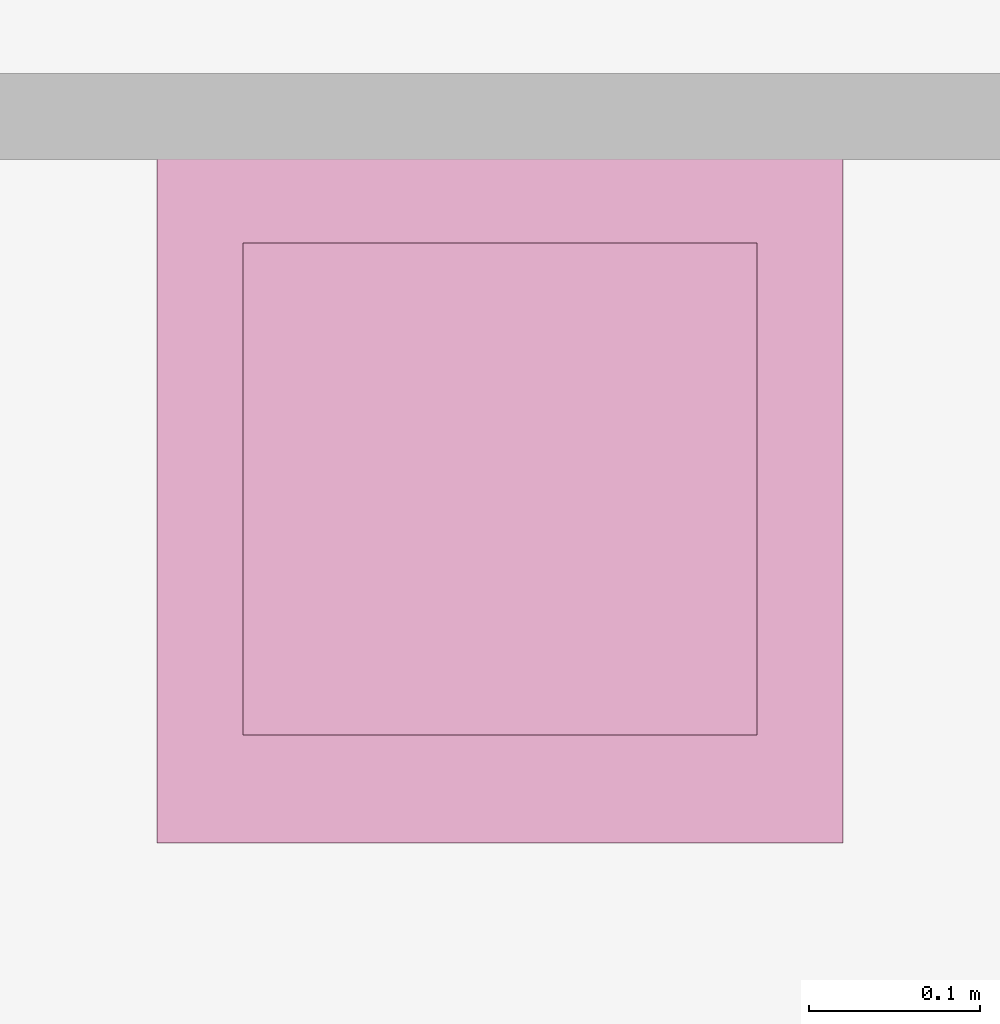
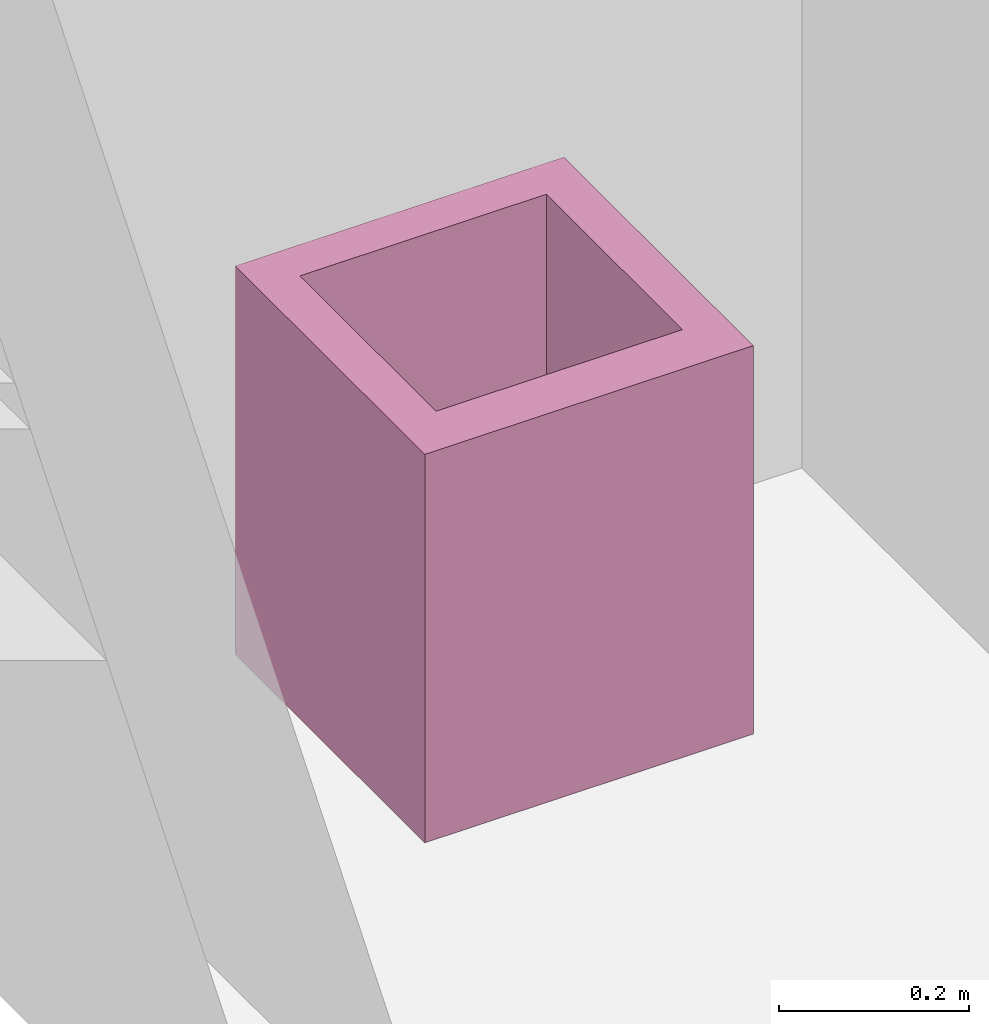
"""IFC4 building model written with IfcOpenShell, lengths in metres."""

from ifc_helpers import new_model, entity, si_unit, converted_unit, derived_unit, frame, origin, place, context, subcontext, project, spatial, faceted_brep, element, save


model = new_model("IFC4")

# Units and contexts
model_context = context("Model", 3, precision=1e-05, world=origin())
body_context = subcontext(model_context, "Body", "Model", "MODEL_VIEW")
ifc_project = project(units=[si_unit("LENGTHUNIT", "METRE"), si_unit("AREAUNIT", "SQUARE_METRE"), si_unit("VOLUMEUNIT", "CUBIC_METRE"), si_unit("MASSUNIT", "GRAM", prefix="KILO"), converted_unit("PLANEANGLEUNIT", "DEGREE", entity("IfcPlaneAngleMeasure", 0.0174532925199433), si_unit("PLANEANGLEUNIT", "RADIAN"), dimensions=[0, 0, 0, 0, 0, 0, 0]), derived_unit("THERMALTRANSMITTANCEUNIT", [(si_unit("POWERUNIT", "WATT"), 1), (si_unit("THERMODYNAMICTEMPERATUREUNIT", "KELVIN"), -1), (si_unit("LENGTHUNIT", "METRE"), -2)]), derived_unit("VOLUMETRICFLOWRATEUNIT", [(si_unit("LENGTHUNIT", "METRE"), 3), (converted_unit("TIMEUNIT", "hour", entity("IfcTimeMeasure", 3600.0), si_unit("TIMEUNIT", "SECOND"), dimensions=[0, 0, 1, 0, 0, 0, 0]), -1), (si_unit("LENGTHUNIT", "METRE"), -1)])], contexts=[model_context])

# Building, storeys
building_placement = place(None, origin())
building = spatial("IfcBuilding", under=ifc_project, at=building_placement, Name="HABITATGE PLURIFAMILIAR", CompositionType="ELEMENT")
storey_1_placement = place(building_placement, frame((0.0, 0.0, 9.26)))
storey_1 = spatial("IfcBuildingStorey", under=building, at=storey_1_placement, Name="PLANTA SEGONA", CompositionType="ELEMENT", Elevation=9.26)
storey_2_placement = place(storey_1_placement, frame((0.0, 0.0, 6.25)))
storey_2 = spatial("IfcBuildingStorey", under=storey_1, at=storey_2_placement, Name="NOU", CompositionType="PARTIAL")

# Furniture
furniture_placement = place(storey_2_placement, frame((416.237811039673, 27.300783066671, -6.25)))
element("IfcFurniture", 1, at=furniture_placement, inside=storey_2, Name="Abocador P2", context=body_context, shape_type="Brep", body=[
    faceted_brep([(0.05, 0.0628648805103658, 0.5), (0.05, 0.35, 0.5), (0.05, 0.35, 0.2), (0.05, 0.0628648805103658, 0.2), (0.35, 0.0628648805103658, 0.5), (0.35, 0.0628648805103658, 0.2), (0.35, 0.35, 0.5), (0.35, 0.35, 0.2), (0.4, 0.4, 0.0), (0.0, 0.4, 0.0), (0.0, 0.0, 0.0), (0.4, 0.0, 0.0), (0.4, 0.4, 0.5), (0.0, 0.4, 0.5), (0.4, 0.0, 0.5), (0.0, 0.0, 0.5)], [[[0, 1, 2, 3]], [[4, 0, 3, 5]], [[1, 6, 7, 2]], [[7, 5, 3, 2]], [[6, 4, 5, 7]], [[8, 9, 10, 11]], [[9, 8, 12, 13]], [[8, 11, 14, 12]], [[11, 10, 15, 14]], [[10, 9, 13, 15]], [[13, 12, 14, 15], [1, 0, 4, 6]]], orient=[[False], [False], [False], [False], [False], [False], [False], [False], [False], [False], [False, False]]),
])

save(model, "model.ifc")
